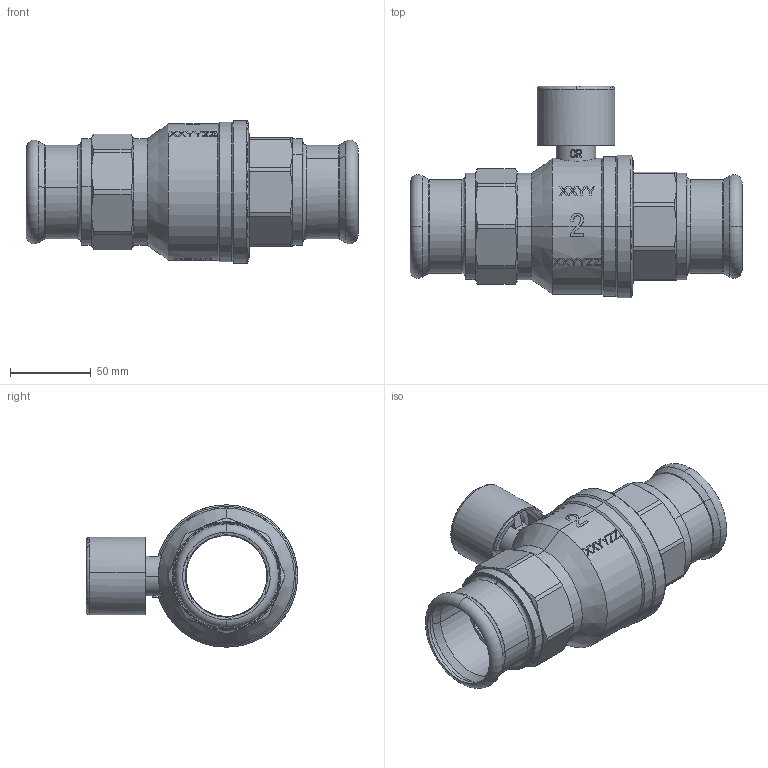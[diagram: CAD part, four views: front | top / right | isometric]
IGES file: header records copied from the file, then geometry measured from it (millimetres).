
Global section: file name: No Iges File Name specified; native system: AutoDesk Inventor R12.0; preprocessor: AutoDesk Inventor Iges Exporter R12.0; date: 20111122.092209; units: millimetre
Bounding box: 205 x 130.51 x 88 mm (x, y, z)
Volume: 384544.5 mm3; surface area: 118703.2 mm2
Topology: 1 solids, 1 shells, 977 faces, 2773 edges, 1867 vertices
Faces by surface type: plane 465, bspline 245, cylinder 86, revolution 85, cone 80, torus 16
